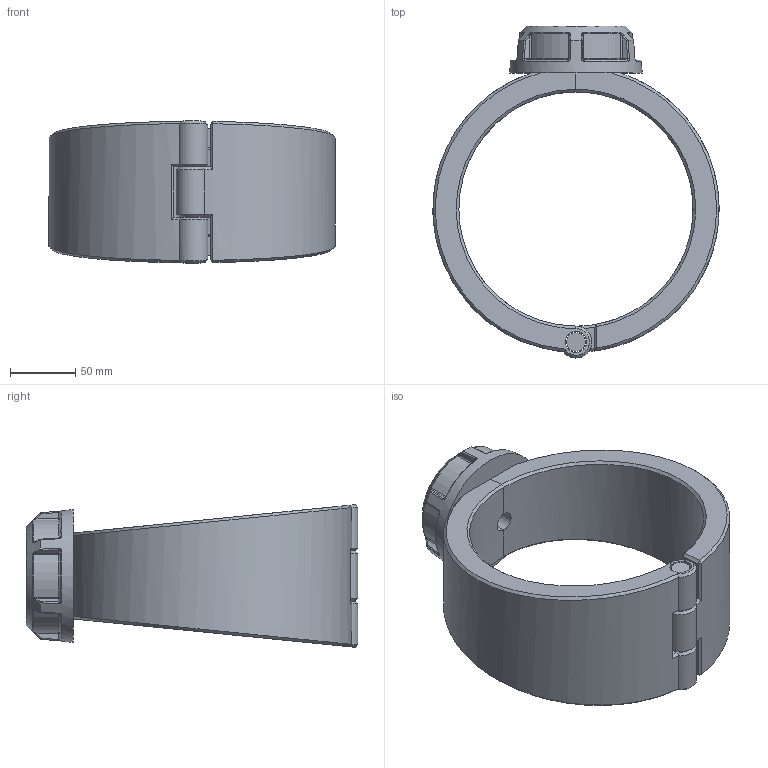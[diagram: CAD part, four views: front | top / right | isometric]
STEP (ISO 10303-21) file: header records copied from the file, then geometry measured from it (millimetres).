
FILE_DESCRIPTION(/* description */ ('Plassadle Threaded 180x1'''''),/* implementation_level */ '2;1');
FILE_NAME(/* name */ 'C:\Users\comp2\Dropbox\99-16-3568-Processing\Mechanical Fittings\16300\stp\163000180010.stp',/* time_stamp */ '2022-02-03T11:52:38+00:00',/* author */ ('comp2'),/* organization */ (''),/* preprocessor_version */ 'ST-DEVELOPER v17.2',/* originating_system */ 'Autodesk Inventor 2019',/* authorisation */ '');
FILE_SCHEMA (('AUTOMOTIVE_DESIGN { 1 0 10303 214 3 1 1 }'));
Length unit declared in the file: millimetre
Products named in the file (1): 163000180010
Bounding box: 219.93 x 255 x 109.6 mm (x, y, z)
Volume: 1274338.7 mm3; surface area: 176248 mm2
Topology: 4 solids, 4 shells, 203 faces, 486 edges, 293 vertices
Faces by surface type: bspline 58, plane 53, cylinder 47, torus 18, cone 15, sphere 12
Full cylindrical faces by diameter (mm): 14.4 x1, 15.146 x1, 16.4 x3, 25.747 x1, 30.291 x1, 45.437 x1
Entity records: 8262 total; most frequent: CARTESIAN_POINT 3915, ORIENTED_EDGE 972, DIRECTION 781, EDGE_CURVE 486, AXIS2_PLACEMENT_3D 330, VERTEX_POINT 293, EDGE_LOOP 213, FACE_OUTER_BOUND 203
